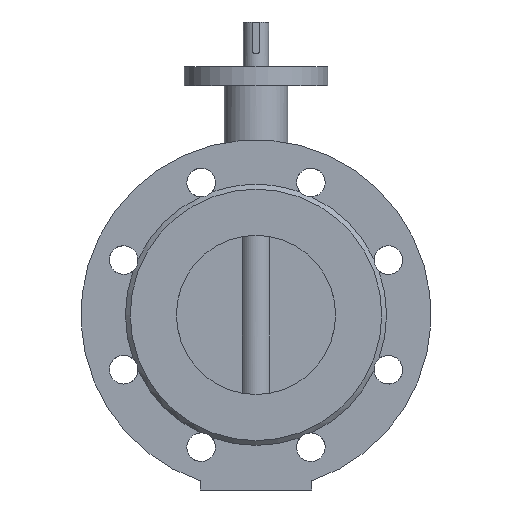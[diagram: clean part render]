
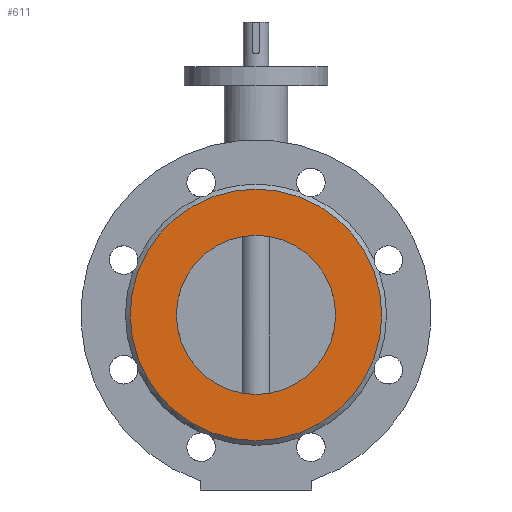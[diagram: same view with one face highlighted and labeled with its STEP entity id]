
A CAD part, front view. The second image highlights one B-rep face of the part: STEP entity #611.
In plain terms, the highlighted planar face has unit normal (0, -1, 0).
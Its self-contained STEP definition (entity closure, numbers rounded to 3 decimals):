
#611=ADVANCED_FACE('',(#1317,#1319),#1321,.T.);
#1317=FACE_BOUND('',#1318,.T.);
#1318=EDGE_LOOP('',(#1844));
#1319=FACE_BOUND('',#1320,.T.);
#1320=EDGE_LOOP('',(#1845));
#1321=PLANE('',#1322);
#1322=AXIS2_PLACEMENT_3D('',#1323,#1324,#1325);
#1323=CARTESIAN_POINT('',(0.,-63.5,0.));
#1324=DIRECTION('',(0.,-1.,0.));
#1325=DIRECTION('',(0.,0.,1.));
#1844=ORIENTED_EDGE('',*,*,#2092,.F.);
#1845=ORIENTED_EDGE('',*,*,#2104,.T.);
#2092=EDGE_CURVE('',#2461,#2461,#2462,.T.);
#2104=EDGE_CURVE('',#2477,#2477,#2478,.T.);
#2461=VERTEX_POINT('',#4722);
#2462=CIRCLE('',#4723,79.);
#2477=VERTEX_POINT('',#4774);
#2478=CIRCLE('',#4775,50.);
#4722=CARTESIAN_POINT('',(0.,-63.5,79.));
#4723=AXIS2_PLACEMENT_3D('',#4724,#4725,#4726);
#4724=CARTESIAN_POINT('',(0.,-63.5,0.));
#4725=DIRECTION('',(0.,1.,0.));
#4726=DIRECTION('',(0.,0.,1.));
#4774=CARTESIAN_POINT('',(0.,-63.5,50.));
#4775=AXIS2_PLACEMENT_3D('',#4776,#4777,#4778);
#4776=CARTESIAN_POINT('',(0.,-63.5,0.));
#4777=DIRECTION('',(0.,1.,0.));
#4778=DIRECTION('',(0.,0.,1.));
